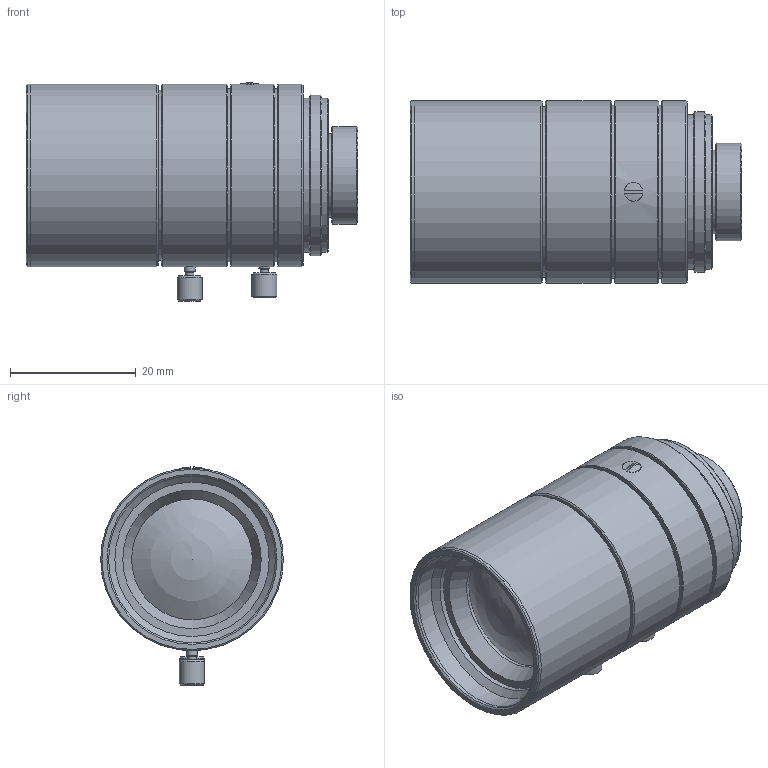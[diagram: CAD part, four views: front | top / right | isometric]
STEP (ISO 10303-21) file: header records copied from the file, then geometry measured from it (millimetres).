
FILE_DESCRIPTION(/* description */ ('Unknown'),/* implementation_level */ '2;1');
FILE_NAME(/* name */ 'M1228-MPW3_HP_251009_',/* time_stamp */ '2025-10-09T14:06:32+09:00',/* author */ ('Unknown'),/* organization */ ('Unknown'),/* preprocessor_version */ 'ST-DEVELOPER v18.102',/* originating_system */ 'Solid Edge',/* authorisation */ 'Unknown');
FILE_SCHEMA (('AUTOMOTIVE_DESIGN {1 0 10303 214 3 1 1}'));
Length unit declared in the file: millimetre
Products named in the file (3): M1228-MPW3_HP_251009_; M1228-MPW3_Infinity_251009_; M1228-MPW3_Mechanical Limit_2510093
Assembly tree (2 placements, depth 2):
  M1228-MPW3_HP_251009_
    M1228-MPW3_Infinity_251009_
    M1228-MPW3_Mechanical Limit_2510093
Bounding box: 52.72 x 29 x 34.68 mm (x, y, z)
Surface area: 14570.7 mm2
Topology: 2 solids, 2 shells, 160 faces, 280 edges, 166 vertices
Faces by surface type: cylinder 54, cone 52, plane 46, sphere 8
Full cylindrical faces by diameter (mm): 1.3 x4, 1.7 x4, 4 x4, 10.3 x2, 13.25 x2, 14.5 x2, 15.5 x2, 19.2 x2, 19.5 x2, 22.5 x2, 24.5 x6, 25.5 x2, 26.5 x2, 27 x2, 27.5 x4, 29 x8
Entity records: 4483 total; most frequent: DIRECTION 638, CARTESIAN_POINT 559, ORIENTED_EDGE 340, AXIS2_PLACEMENT_3D 313, EDGE_LOOP 308, FACE_BOUND 308, EDGE_CURVE 170, VERTEX_POINT 162
